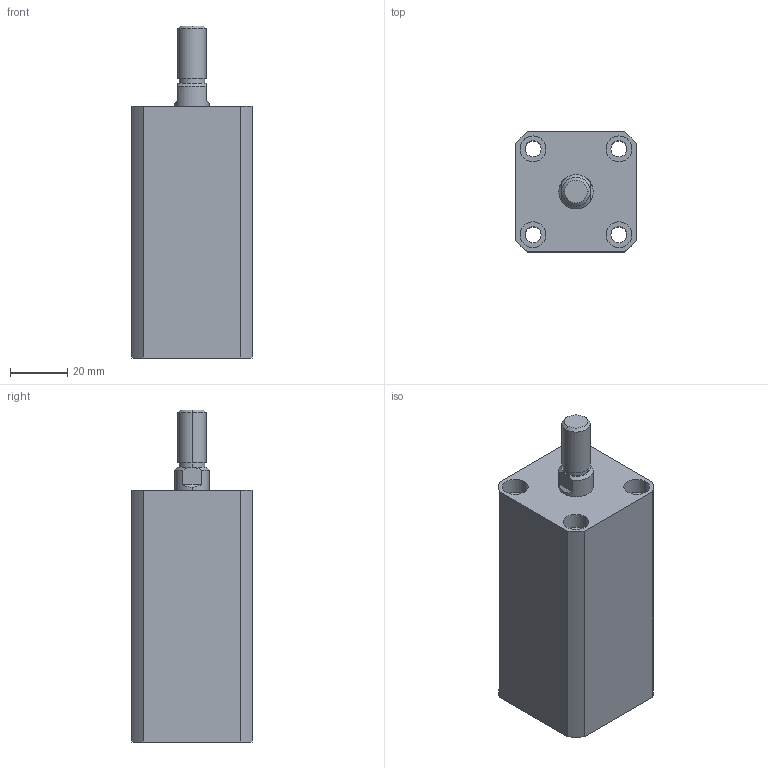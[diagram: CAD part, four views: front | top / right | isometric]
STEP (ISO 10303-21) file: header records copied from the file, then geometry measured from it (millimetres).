
FILE_DESCRIPTION (( 'STEP AP203' ), '1' );
FILE_NAME ('HTB-SDMB20-45W.STEP', '2019-10-08T11:57:13', ( '微软用户' ), ( '微软中国' ), 'SwSTEP 2.0', 'SolidWorks 2012', '' );
FILE_SCHEMA (( 'CONFIG_CONTROL_DESIGN' ));
Length unit declared in the file: millimetre
Products named in the file (3): HTB-SDMB20-45W; HTB-SDMB20-45掛极; HTB-SDMB20-45W活塞杆
Assembly tree (2 placements, depth 2):
  HTB-SDMB20-45W
    HTB-SDMB20-45掛极
    HTB-SDMB20-45W活塞杆
Bounding box: 42 x 42 x 116 mm (x, y, z)
Volume: 135251.8 mm3; surface area: 33914.2 mm2
Topology: 2 solids, 2 shells, 140 faces, 332 edges, 218 vertices
Faces by surface type: plane 66, cylinder 48, bspline 16, torus 6, cone 4
Entity records: 5129 total; most frequent: CARTESIAN_POINT 1587, ORIENTED_EDGE 664, DIRECTION 662, EDGE_CURVE 332, AXIS2_PLACEMENT_3D 241, VERTEX_POINT 218, LINE 180, VECTOR 180
